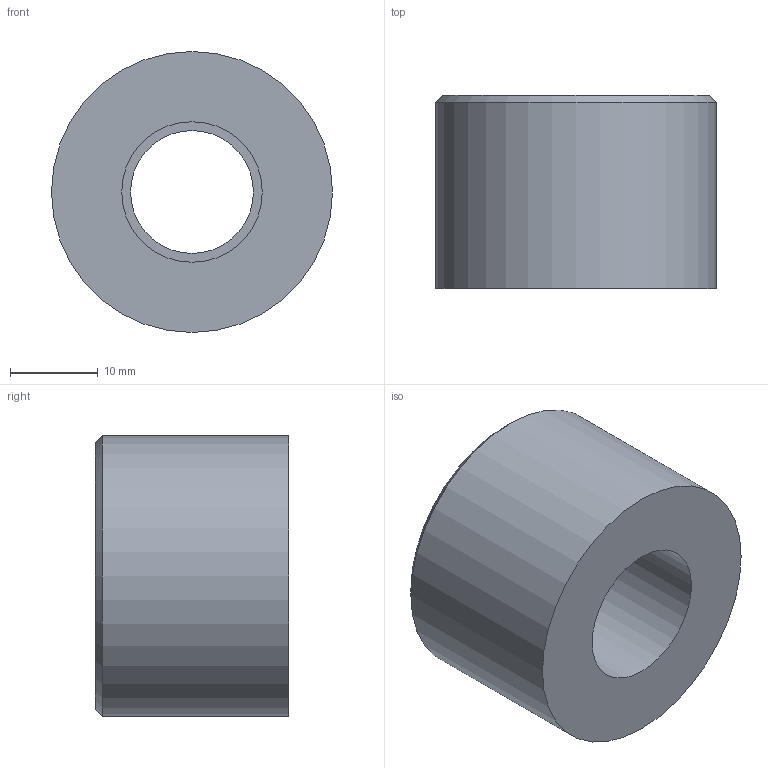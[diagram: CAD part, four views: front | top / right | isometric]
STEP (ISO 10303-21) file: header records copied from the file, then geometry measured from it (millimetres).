
FILE_DESCRIPTION(/* description */ ('PVC riduzione corta incollaggio metrica'),/* implementation_level */ '2;1');
FILE_NAME(/* name */ 'C:\Users\POLYPIPE\Desktop\DATASET INVENTOR\LIBRERIA EFFAST\RACCORDI 3DxWEB\RDR\3D_RDRRCD\3D_RDRRCD032A.stp',/* time_stamp */ '2018-01-19T15:28:59+01:00',/* author */ ('POLYPIPE'),/* organization */ ('Polypipe Italia s.r.l.'),/* preprocessor_version */ 'ST-DEVELOPER v16.1',/* originating_system */ 'Autodesk Inventor 2016',/* authorisation */ '');
FILE_SCHEMA (('CONFIG_CONTROL_DESIGN'));
Length unit declared in the file: millimetre
Products named in the file (1): 3D_RDRRCD
Bounding box: 32 x 22 x 32 mm (x, y, z)
Volume: 12798.6 mm3; surface area: 4423.8 mm2
Topology: 1 solids, 1 shells, 8 faces, 13 edges, 8 vertices
Faces by surface type: plane 3, cylinder 3, cone 2
Full cylindrical faces by diameter (mm): 14 x1, 16 x1, 32 x1
Entity records: 192 total; most frequent: DIRECTION 34, CARTESIAN_POINT 25, AXIS2_PLACEMENT_3D 17, EDGE_LOOP 16, ORIENTED_EDGE 16, FACE_BOUND 8, FACE_OUTER_BOUND 8, CIRCLE 8
